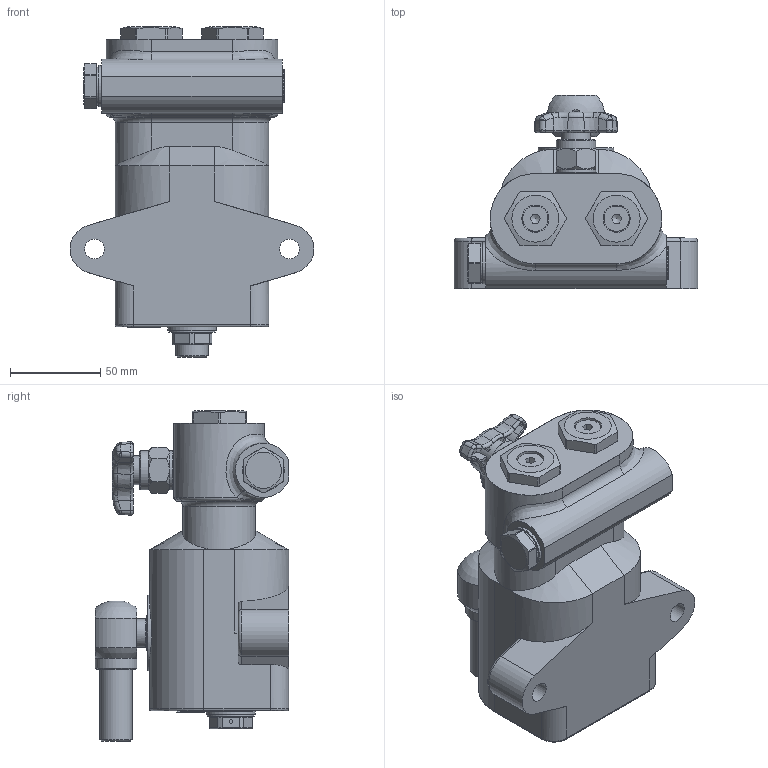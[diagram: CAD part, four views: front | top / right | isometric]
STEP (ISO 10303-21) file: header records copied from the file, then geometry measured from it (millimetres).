
FILE_DESCRIPTION((''),'2;1');
FILE_NAME('G:\HV_HYDRAULIC\AZIENDA_HV_HYDRAULIC\ARCHIVIO_DISEGNI\5_PRODOTTI_FINITI\1_POMPE_MANUALI\6091_PM2P_5\6091.0000_PM2P_5_(HV)\6091.0000.stp','2024-04-02T11:44:31',('christian.scardovi'),(''),'Autodesk Inventor 2013','Autodesk Inventor 2013','');
FILE_SCHEMA(('AUTOMOTIVE_DESIGN { 1 0 10303 214 1 1 1 1 }'));
Length unit declared in the file: millimetre
Products named in the file (1): 6091.0000
Bounding box: 134.9 x 107 x 183.1 mm (x, y, z)
Volume: 643518.8 mm3; surface area: 136022.3 mm2
Topology: 2 solids, 2 shells, 2353 faces, 6363 edges, 4114 vertices
Faces by surface type: cylinder 918, plane 625, cone 375, bspline 285, torus 140, sphere 10
Full cylindrical faces by diameter (mm): 2 x1, 4.917 x2, 5 x9, 6 x2, 6.5 x1, 8 x2, 8.917 x2, 10 x7, 11 x6, 11.5 x2, 13.5 x1, 14 x2, 14.95 x3, 15 x2, 15.4 x2, 16 x5, 18 x3, 20 x4, 21 x1, 21.8 x2, 23 x5, 25 x4, 26 x1, 26.376 x2, 27 x1, 30 x2, 32 x3, 42 x1
Entity records: 85992 total; most frequent: CARTESIAN_POINT 27250, ORIENTED_EDGE 12178, DIRECTION 11224, EDGE_CURVE 6089, AXIS2_PLACEMENT_3D 4435, VERTEX_POINT 4025, EDGE_LOOP 2658, VECTOR 2354
